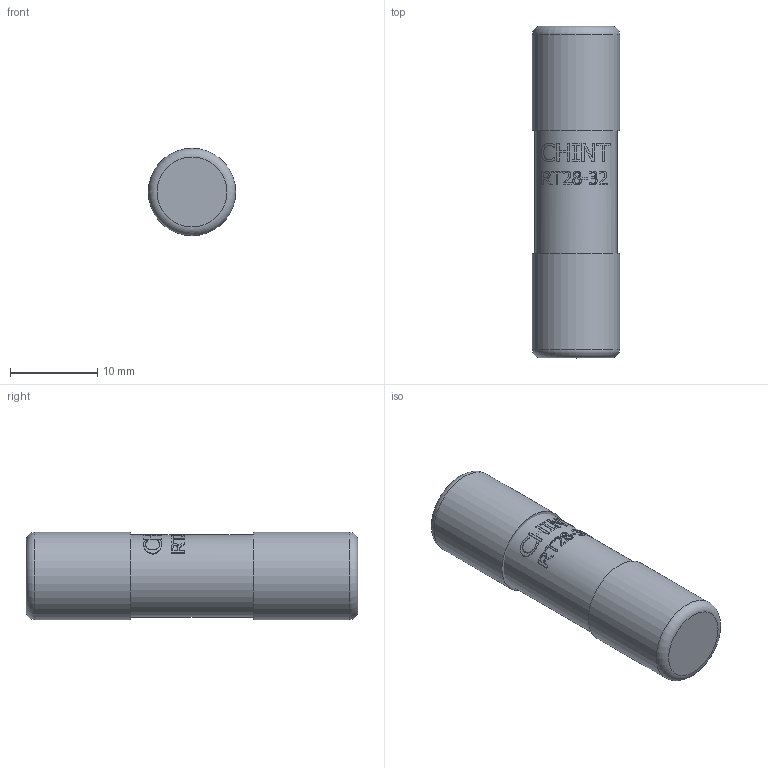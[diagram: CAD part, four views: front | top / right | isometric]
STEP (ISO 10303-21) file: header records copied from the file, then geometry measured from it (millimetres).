
FILE_DESCRIPTION(/* description */ (''),/* implementation_level */ '2;1');
FILE_NAME(/* name */ 'D:\CHINT\RT28\Вставки цил RT28N-32 (CHINT).stp',/* time_stamp */ '2017-09-30T16:02:47+04:00',/* author */ ('RSagdiev'),/* organization */ (''),/* preprocessor_version */ 'ST-DEVELOPER v16.5',/* originating_system */ 'Autodesk Inventor 2017',/* authorisation */ '');
FILE_SCHEMA (('AUTOMOTIVE_DESIGN { 1 0 10303 214 3 1 1 }'));
Length unit declared in the file: millimetre
Products named in the file (1): Вставки цил 
RT28N-32 (CHINT)
Bounding box: 10 x 38 x 10 mm (x, y, z)
Surface area: 2188.3 mm2
Topology: 3 solids, 3 shells, 200 faces, 535 edges, 356 vertices
Faces by surface type: plane 97, bspline 83, cylinder 18, torus 2
Full cylindrical faces by diameter (mm): 9.4 x1, 10 x2
Entity records: 7762 total; most frequent: CARTESIAN_POINT 3193, ORIENTED_EDGE 1060, DIRECTION 704, EDGE_CURVE 530, VERTEX_POINT 356, LINE 260, VECTOR 260, AXIS2_PLACEMENT_3D 222
